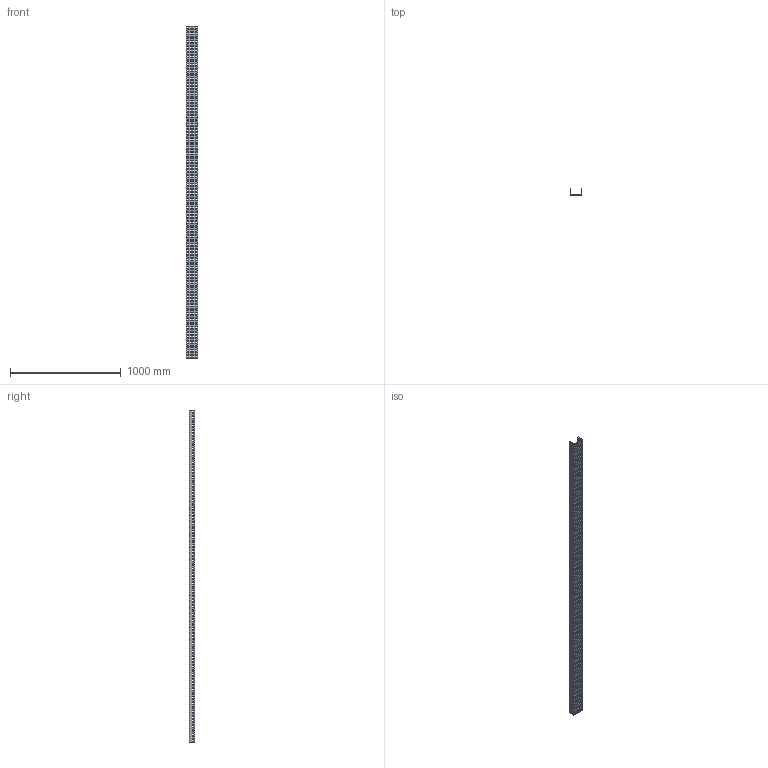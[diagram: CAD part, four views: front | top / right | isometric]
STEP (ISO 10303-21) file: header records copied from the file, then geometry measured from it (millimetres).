
FILE_DESCRIPTION (( 'STEP AP214' ), '1' );
FILE_NAME ('01B3B100.step', '2025-02-21T10:09:36', ( '' ), ( '' ), 'SwSTEP 2.0', 'SolidWorks 2023', '' );
FILE_SCHEMA (( 'AUTOMOTIVE_DESIGN' ));
Length unit declared in the file: millimetre
Products named in the file (1): 01B3B100
Bounding box: 104 x 52 x 3000 mm (x, y, z)
Volume: 1845900 mm3; surface area: 1173975 mm2
Topology: 1 solids, 1 shells, 1738 faces, 5208 edges, 3472 vertices
Faces by surface type: plane 1738
Entity records: 59063 total; most frequent: CARTESIAN_POINT 10419, ORIENTED_EDGE 10416, DIRECTION 8686, VECTOR 5208, LINE 5208, EDGE_CURVE 5208, VERTEX_POINT 3472, EDGE_LOOP 2602
